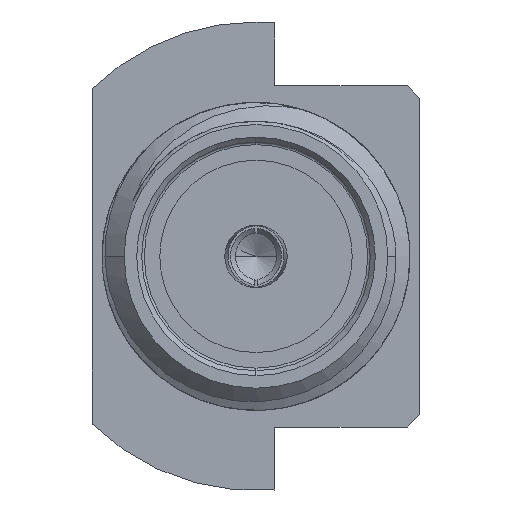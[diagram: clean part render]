
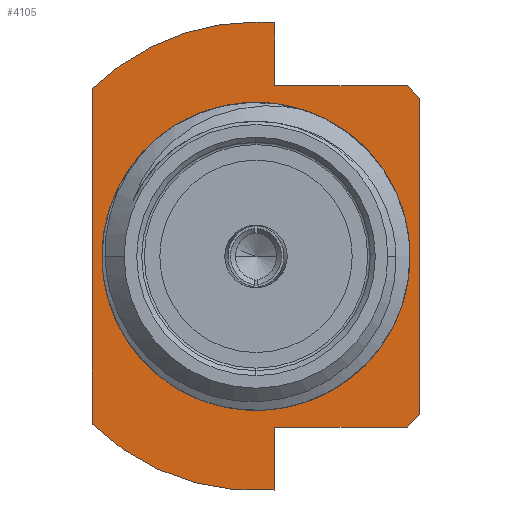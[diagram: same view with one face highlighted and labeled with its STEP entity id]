
A CAD part, left-side view. The second image highlights one B-rep face of the part: STEP entity #4105.
In plain terms, the highlighted planar face has unit normal (-1, 0, 0).
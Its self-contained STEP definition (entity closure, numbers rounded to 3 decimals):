
#273=CARTESIAN_POINT('',(6.629,0.,0.));
#274=DIRECTION('',(-1.,0.,0.));
#275=DIRECTION('',(0.,0.,1.));
#276=AXIS2_PLACEMENT_3D('',#273,#274,#275);
#278=CARTESIAN_POINT('',(6.629,0.,0.));
#279=DIRECTION('',(-1.,0.,0.));
#280=DIRECTION('',(0.,-0.08,0.997));
#281=AXIS2_PLACEMENT_3D('',#278,#279,#280);
#283=DIRECTION('',(0.,0.,1.));
#284=VECTOR('',#283,1.28);
#285=CARTESIAN_POINT('',(6.629,-0.381,3.467));
#286=LINE('',#285,#284);
#287=DIRECTION('',(0.,1.,0.));
#288=VECTOR('',#287,2.692);
#289=CARTESIAN_POINT('',(6.629,-3.073,3.467));
#290=LINE('',#289,#288);
#291=DIRECTION('',(0.,0.707,0.707));
#292=VECTOR('',#291,0.359);
#293=CARTESIAN_POINT('',(6.629,-3.327,3.213));
#294=LINE('',#293,#292);
#295=DIRECTION('',(0.,0.,1.));
#296=VECTOR('',#295,6.426);
#297=CARTESIAN_POINT('',(6.629,-3.327,-3.213));
#298=LINE('',#297,#296);
#299=DIRECTION('',(0.,-0.707,0.707));
#300=VECTOR('',#299,0.359);
#301=CARTESIAN_POINT('',(6.629,-3.073,-3.467));
#302=LINE('',#301,#300);
#303=DIRECTION('',(0.,0.,1.));
#304=VECTOR('',#303,1.28);
#305=CARTESIAN_POINT('',(6.629,-0.381,-4.747));
#306=LINE('',#305,#304);
#307=CARTESIAN_POINT('',(6.629,0.,0.));
#308=DIRECTION('',(-1.,0.,0.));
#309=DIRECTION('',(0.,0.699,-0.715));
#310=AXIS2_PLACEMENT_3D('',#307,#308,#309);
#312=CARTESIAN_POINT('',(6.629,0.,0.));
#313=DIRECTION('',(1.,0.,0.));
#314=DIRECTION('',(0.,1.,0.));
#315=AXIS2_PLACEMENT_3D('',#312,#313,#314);
#317=CARTESIAN_POINT('',(6.629,0.,0.));
#318=DIRECTION('',(1.,0.,0.));
#319=DIRECTION('',(0.,-1.,0.));
#320=AXIS2_PLACEMENT_3D('',#317,#318,#319);
#322=DIRECTION('',(0.,0.,1.));
#323=VECTOR('',#322,6.815);
#324=CARTESIAN_POINT('',(6.629,3.327,-3.407));
#325=LINE('',#324,#323);
#342=DIRECTION('',(0.,1.,0.));
#343=VECTOR('',#342,2.692);
#344=CARTESIAN_POINT('',(6.629,-3.073,-3.467));
#345=LINE('',#344,#343);
#2446=CARTESIAN_POINT('',(6.629,3.327,-3.407));
#2447=CARTESIAN_POINT('',(6.629,3.327,3.407));
#2448=VERTEX_POINT('',#2446);
#2449=VERTEX_POINT('',#2447);
#2450=CARTESIAN_POINT('',(6.629,-0.381,-4.747));
#2451=VERTEX_POINT('',#2450);
#2452=CARTESIAN_POINT('',(6.629,-0.381,-3.467));
#2453=VERTEX_POINT('',#2452);
#2454=CARTESIAN_POINT('',(6.629,-3.073,-3.467));
#2455=VERTEX_POINT('',#2454);
#2456=CARTESIAN_POINT('',(6.629,-3.327,-3.213));
#2457=VERTEX_POINT('',#2456);
#2458=CARTESIAN_POINT('',(6.629,-3.327,3.213));
#2459=VERTEX_POINT('',#2458);
#2460=CARTESIAN_POINT('',(6.629,-3.073,3.467));
#2461=VERTEX_POINT('',#2460);
#2462=CARTESIAN_POINT('',(6.629,-0.381,3.467));
#2463=VERTEX_POINT('',#2462);
#2464=CARTESIAN_POINT('',(6.629,-0.381,4.747));
#2465=VERTEX_POINT('',#2464);
#2466=CARTESIAN_POINT('',(6.629,0.,4.763));
#2467=VERTEX_POINT('',#2466);
#2468=CARTESIAN_POINT('',(6.629,2.934,0.));
#2469=CARTESIAN_POINT('',(6.629,-2.934,0.));
#2470=VERTEX_POINT('',#2468);
#2471=VERTEX_POINT('',#2469);
#4071=CARTESIAN_POINT('',(6.629,2.129,-1.188));
#4072=DIRECTION('',(1.,0.,0.));
#4073=DIRECTION('',(0.,0.,1.));
#4074=AXIS2_PLACEMENT_3D('',#4071,#4072,#4073);
#4075=PLANE('',#4074);
#4077=ORIENTED_EDGE('',*,*,#4076,.T.);
#4079=ORIENTED_EDGE('',*,*,#4078,.F.);
#4081=ORIENTED_EDGE('',*,*,#4080,.F.);
#4083=ORIENTED_EDGE('',*,*,#4082,.F.);
#4085=ORIENTED_EDGE('',*,*,#4084,.F.);
#4087=ORIENTED_EDGE('',*,*,#4086,.F.);
#4089=ORIENTED_EDGE('',*,*,#4088,.F.);
#4091=ORIENTED_EDGE('',*,*,#4090,.F.);
#4093=ORIENTED_EDGE('',*,*,#4092,.T.);
#4095=ORIENTED_EDGE('',*,*,#4094,.F.);
#4097=ORIENTED_EDGE('',*,*,#4096,.F.);
#4098=EDGE_LOOP('',(#4077,#4079,#4081,#4083,#4085,#4087,#4089,#4091,#4093,#4095,
#4097));
#4099=FACE_OUTER_BOUND('',#4098,.F.);
#4100=ORIENTED_EDGE('',*,*,#4061,.F.);
#4102=ORIENTED_EDGE('',*,*,#4101,.F.);
#4103=EDGE_LOOP('',(#4100,#4102));
#4104=FACE_BOUND('',#4103,.F.);
#4105=ADVANCED_FACE('',(#4099,#4104),#4075,.F.);
#277=CIRCLE('',#276,4.763);
#282=CIRCLE('',#281,4.763);
#311=CIRCLE('',#310,4.763);
#316=CIRCLE('',#315,2.934);
#321=CIRCLE('',#320,2.934);
#4061=EDGE_CURVE('',#2470,#2471,#316,.T.);
#4076=EDGE_CURVE('',#2448,#2449,#325,.T.);
#4078=EDGE_CURVE('',#2467,#2449,#277,.T.);
#4080=EDGE_CURVE('',#2465,#2467,#282,.T.);
#4082=EDGE_CURVE('',#2463,#2465,#286,.T.);
#4084=EDGE_CURVE('',#2461,#2463,#290,.T.);
#4086=EDGE_CURVE('',#2459,#2461,#294,.T.);
#4088=EDGE_CURVE('',#2457,#2459,#298,.T.);
#4090=EDGE_CURVE('',#2455,#2457,#302,.T.);
#4092=EDGE_CURVE('',#2455,#2453,#345,.T.);
#4094=EDGE_CURVE('',#2451,#2453,#306,.T.);
#4096=EDGE_CURVE('',#2448,#2451,#311,.T.);
#4101=EDGE_CURVE('',#2471,#2470,#321,.T.);
